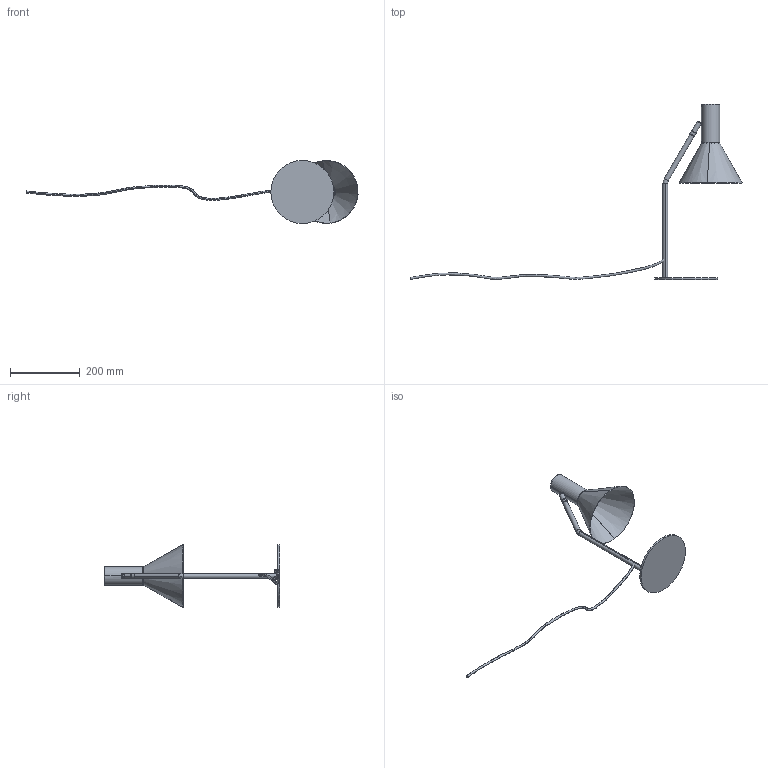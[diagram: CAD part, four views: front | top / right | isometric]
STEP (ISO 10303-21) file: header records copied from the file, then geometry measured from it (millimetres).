
FILE_DESCRIPTION (( 'STEP AP214' ), '1' );
FILE_NAME ('LYSS table h50cm.STEP', '2020-03-10T12:32:50', ( 'Frandsen Group Administrator' ), ( 'Frandsen Group' ), 'SwSTEP 2.0', 'SolidWorks 2019', '' );
FILE_SCHEMA (( 'AUTOMOTIVE_DESIGN' ));
Length unit declared in the file: millimetre
Products named in the file (14): LYSS base; (3018) part 1; LYSS shade bottom; 70015 - E27 socket ring, white; E27 Socket, white, w. two rings 70513 2x70015 70510 38510; (3018) part 3; (3018) Swivel joint ø14x43 with M10x1,0 inner & outer thread_60 deg; LYSS shade top; 70510 - E27 Click socket bottom, white; LYSS table h50cm; 28301 part 2; coord floor lamp; 70513 - E27 Click-Socket outer shell, fully threaded, white; 38510  Cable protector for click-socket
Assembly tree (13 placements, depth 3):
  LYSS table h50cm
    LYSS base
    (3018) Swivel joint ø14x43 with M10x1,0 inner & outer thread_60 deg
      (3018) part 3
      28301 part 2
      (3018) part 1
    coord floor lamp
    LYSS shade bottom
    LYSS shade top
    E27 Socket, white, w. two rings 70513 2x70015 70510 38510
      70513 - E27 Click-Socket outer shell, fully threaded, white
      70015 - E27 socket ring, white
      70510 - E27 Click socket bottom, white
      38510  Cable protector for click-socket
Bounding box: 948.79 x 500.24 x 180 mm (x, y, z)
Volume: 272854.6 mm3; surface area: 269549.5 mm2
Topology: 12 solids, 12 shells, 409 faces, 1017 edges, 644 vertices
Faces by surface type: plane 148, cylinder 140, cone 75, sphere 32, torus 12, bspline 2
Entity records: 14863 total; most frequent: CARTESIAN_POINT 4121, DIRECTION 2240, ORIENTED_EDGE 2034, EDGE_CURVE 1017, AXIS2_PLACEMENT_3D 917, VERTEX_POINT 644, CIRCLE 492, EDGE_LOOP 443
